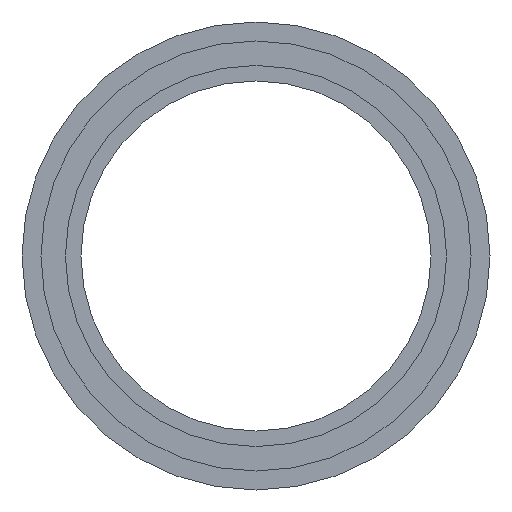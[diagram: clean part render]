
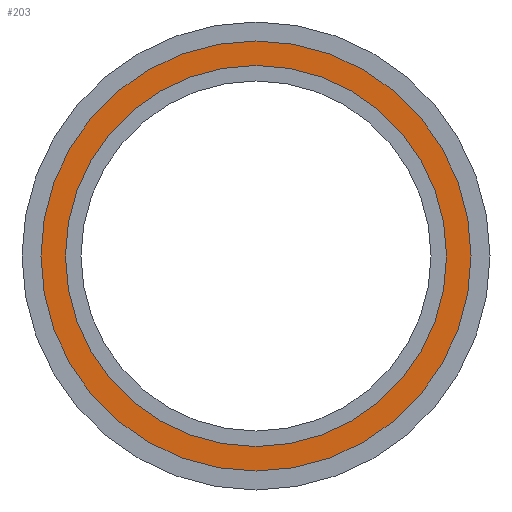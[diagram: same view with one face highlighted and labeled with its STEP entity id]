
A CAD part, left-side view. The second image highlights one B-rep face of the part: STEP entity #203.
In plain terms, the highlighted planar face has unit normal (-1, 0, 0).
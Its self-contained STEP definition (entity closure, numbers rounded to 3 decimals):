
#25=FACE_BOUND($,#64,.T.);
#48=FACE_OUTER_BOUND($,#63,.T.);
#63=EDGE_LOOP($,(#158));
#64=EDGE_LOOP($,(#159));
#101=CIRCLE($,#226,51.);
#102=CIRCLE($,#227,45.19);
#120=VERTEX_POINT($,#343);
#121=VERTEX_POINT($,#345);
#139=EDGE_CURVE($,#120,#120,#101,.T.);
#140=EDGE_CURVE($,#121,#121,#102,.T.);
#158=ORIENTED_EDGE($,*,*,#139,.F.);
#159=ORIENTED_EDGE($,*,*,#140,.T.);
#196=PLANE($,#225);
#203=ADVANCED_FACE($,(#48,#25),#196,.T.);
#225=AXIS2_PLACEMENT_3D($,#342,#265,#266);
#226=AXIS2_PLACEMENT_3D($,#344,#267,#268);
#227=AXIS2_PLACEMENT_3D($,#346,#269,#270);
#265=DIRECTION('center_axis',(-1.,0.,0.));
#266=DIRECTION('ref_axis',(0.,0.,1.));
#267=DIRECTION('center_axis',(1.,0.,0.));
#268=DIRECTION('ref_axis',(0.,1.,0.));
#269=DIRECTION('center_axis',(1.,0.,0.));
#270=DIRECTION('ref_axis',(0.,1.,0.));
#342=CARTESIAN_POINT('Origin',(4.,48.095,0.));
#343=CARTESIAN_POINT('',(4.,51.,0.));
#344=CARTESIAN_POINT('Origin',(4.,0.,0.));
#345=CARTESIAN_POINT('',(4.,45.19,0.));
#346=CARTESIAN_POINT('Origin',(4.,0.,0.));
